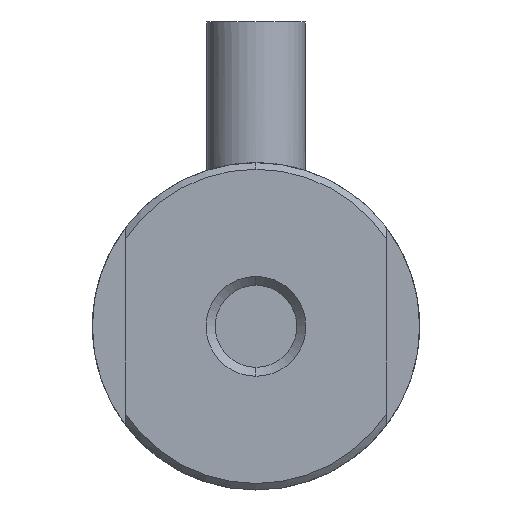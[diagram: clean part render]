
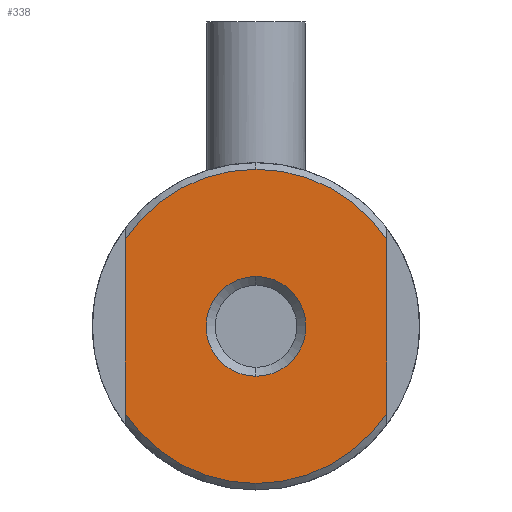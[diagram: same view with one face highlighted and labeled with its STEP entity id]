
A CAD part, front view. The second image highlights one B-rep face of the part: STEP entity #338.
In plain terms, the highlighted planar face has unit normal (0, -1, 0).
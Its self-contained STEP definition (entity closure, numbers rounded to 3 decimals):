
#10 = ORIENTED_EDGE ( 'NONE', *, *, #431, .F. ) ;
#41 = CARTESIAN_POINT ( 'NONE',  ( 15.221, -12.067, 27.9 ) ) ;
#117 = DIRECTION ( 'NONE',  ( 0., -1., 0. ) ) ;
#121 = DIRECTION ( 'NONE',  ( 0., -1., 0. ) ) ;
#142 = FACE_BOUND ( 'NONE', #574, .T. ) ;
#190 = DIRECTION ( 'NONE',  ( 0., 0., 1. ) ) ;
#207 = DIRECTION ( 'NONE',  ( 0., 0., 1. ) ) ;
#236 = DIRECTION ( 'NONE',  ( 0., 0., 1. ) ) ;
#290 = AXIS2_PLACEMENT_3D ( 'NONE', #401, #544, #236 ) ;
#305 = VERTEX_POINT ( 'NONE', #1336 ) ;
#310 = ORIENTED_EDGE ( 'NONE', *, *, #443, .T. ) ;
#311 = CARTESIAN_POINT ( 'NONE',  ( 7.221, -12.067, 22.247 ) ) ;
#331 = EDGE_CURVE ( 'NONE', #305, #1666, #1248, .T. ) ;
#338 = ADVANCED_FACE ( 'NONE', ( #142, #653 ), #1469, .F. ) ;
#401 = CARTESIAN_POINT ( 'NONE',  ( 11.221, -12.067, 24.9 ) ) ;
#431 = EDGE_CURVE ( 'NONE', #1250, #891, #1202, .T. ) ;
#443 = EDGE_CURVE ( 'NONE', #1203, #1175, #1663, .T. ) ;
#482 = CARTESIAN_POINT ( 'NONE',  ( 7.221, -12.067, 27.553 ) ) ;
#485 = EDGE_CURVE ( 'NONE', #1642, #1666, #1684, .T. ) ;
#502 = AXIS2_PLACEMENT_3D ( 'NONE', #780, #1074, #520 ) ;
#520 = DIRECTION ( 'NONE',  ( 0., 0., -1. ) ) ;
#544 = DIRECTION ( 'NONE',  ( 0., -1., 0. ) ) ;
#551 = VECTOR ( 'NONE', #1040, 1000. ) ;
#574 = EDGE_LOOP ( 'NONE', ( #1109, #10 ) ) ;
#641 = AXIS2_PLACEMENT_3D ( 'NONE', #951, #117, #720 ) ;
#653 = FACE_OUTER_BOUND ( 'NONE', #1651, .T. ) ;
#689 = DIRECTION ( 'NONE',  ( 0., 0., 1. ) ) ;
#696 = VECTOR ( 'NONE', #207, 1000. ) ;
#704 = ORIENTED_EDGE ( 'NONE', *, *, #802, .T. ) ;
#720 = DIRECTION ( 'NONE',  ( 0., 0., 1. ) ) ;
#763 = EDGE_CURVE ( 'NONE', #1642, #1175, #958, .T. ) ;
#780 = CARTESIAN_POINT ( 'NONE',  ( 11.221, -12.067, 24.9 ) ) ;
#802 = EDGE_CURVE ( 'NONE', #305, #1203, #1392, .T. ) ;
#810 = DIRECTION ( 'NONE',  ( 0., -1., 0. ) ) ;
#891 = VERTEX_POINT ( 'NONE', #1241 ) ;
#892 = DIRECTION ( 'NONE',  ( 0., 1., 0. ) ) ;
#914 = AXIS2_PLACEMENT_3D ( 'NONE', #1523, #121, #689 ) ;
#934 = ORIENTED_EDGE ( 'NONE', *, *, #763, .F. ) ;
#951 = CARTESIAN_POINT ( 'NONE',  ( 11.221, -12.067, 24.9 ) ) ;
#958 = LINE ( 'NONE', #1053, #696 ) ;
#1040 = DIRECTION ( 'NONE',  ( 0., 0., -1. ) ) ;
#1053 = CARTESIAN_POINT ( 'NONE',  ( 7.221, -12.067, 27.9 ) ) ;
#1074 = DIRECTION ( 'NONE',  ( 0., -1., 0. ) ) ;
#1082 = CIRCLE ( 'NONE', #502, 1.525 ) ;
#1106 = CARTESIAN_POINT ( 'NONE',  ( 11.221, -12.067, 24.9 ) ) ;
#1109 = ORIENTED_EDGE ( 'NONE', *, *, #1317, .F. ) ;
#1156 = AXIS2_PLACEMENT_3D ( 'NONE', #1106, #810, #1811 ) ;
#1175 = VERTEX_POINT ( 'NONE', #482 ) ;
#1177 = CARTESIAN_POINT ( 'NONE',  ( 11.221, -12.067, 24.9 ) ) ;
#1202 = CIRCLE ( 'NONE', #1156, 1.525 ) ;
#1203 = VERTEX_POINT ( 'NONE', #1625 ) ;
#1241 = CARTESIAN_POINT ( 'NONE',  ( 11.221, -12.067, 23.375 ) ) ;
#1248 = LINE ( 'NONE', #41, #551 ) ;
#1250 = VERTEX_POINT ( 'NONE', #1793 ) ;
#1317 = EDGE_CURVE ( 'NONE', #891, #1250, #1082, .T. ) ;
#1336 = CARTESIAN_POINT ( 'NONE',  ( 15.221, -12.067, 27.553 ) ) ;
#1392 = CIRCLE ( 'NONE', #290, 4.8 ) ;
#1469 = PLANE ( 'NONE',  #1834 ) ;
#1523 = CARTESIAN_POINT ( 'NONE',  ( 11.221, -12.067, 24.9 ) ) ;
#1580 = CARTESIAN_POINT ( 'NONE',  ( 15.221, -12.067, 22.247 ) ) ;
#1620 = ORIENTED_EDGE ( 'NONE', *, *, #331, .F. ) ;
#1625 = CARTESIAN_POINT ( 'NONE',  ( 11.221, -12.067, 29.7 ) ) ;
#1642 = VERTEX_POINT ( 'NONE', #311 ) ;
#1651 = EDGE_LOOP ( 'NONE', ( #1620, #704, #310, #934, #1802 ) ) ;
#1663 = CIRCLE ( 'NONE', #914, 4.8 ) ;
#1666 = VERTEX_POINT ( 'NONE', #1580 ) ;
#1684 = CIRCLE ( 'NONE', #641, 4.8 ) ;
#1793 = CARTESIAN_POINT ( 'NONE',  ( 11.221, -12.067, 26.425 ) ) ;
#1802 = ORIENTED_EDGE ( 'NONE', *, *, #485, .T. ) ;
#1811 = DIRECTION ( 'NONE',  ( 0., 0., -1. ) ) ;
#1834 = AXIS2_PLACEMENT_3D ( 'NONE', #1177, #892, #190 ) ;
